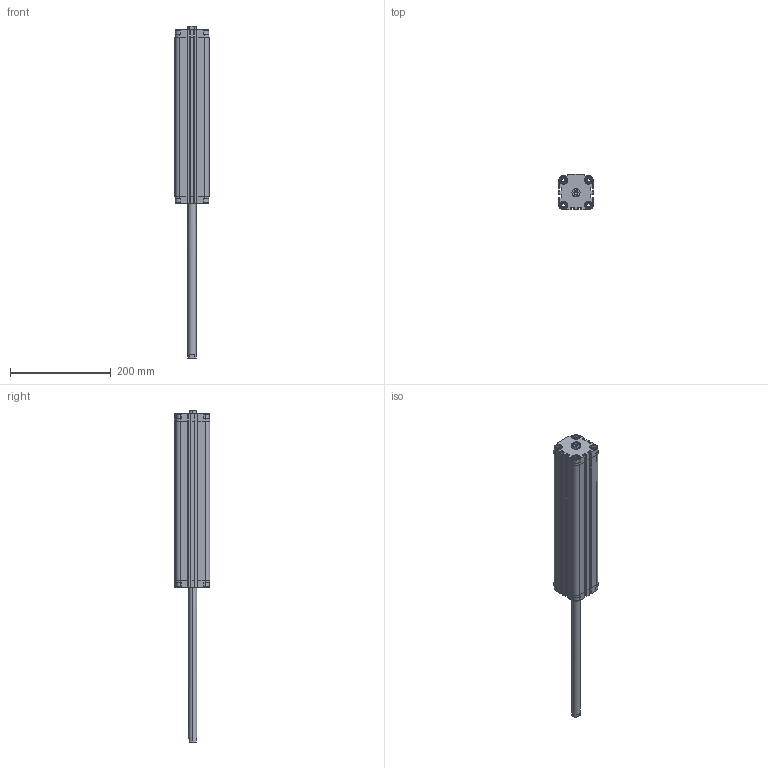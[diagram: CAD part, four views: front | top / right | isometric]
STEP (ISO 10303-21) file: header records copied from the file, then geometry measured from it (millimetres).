
FILE_DESCRIPTION (( 'STEP AP203' ), '1' );
FILE_NAME ('CDVU50-300F-P.STEP', '2020-07-24T18:37:55', ( '' ), ( '' ), 'SwSTEP 2.0', 'SolidWorks 2019', '' );
FILE_SCHEMA (( 'CONFIG_CONTROL_DESIGN' ));
Length unit declared in the file: millimetre
Products named in the file (1): CDVU50-300F-P
Bounding box: 68 x 71 x 660.5 mm (x, y, z)
Volume: 959300.5 mm3; surface area: 263722.6 mm2
Topology: 2 solids, 2 shells, 722 faces, 1928 edges, 1244 vertices
Faces by surface type: plane 422, cylinder 236, cone 48, torus 16
Entity records: 22639 total; most frequent: CARTESIAN_POINT 4463, ORIENTED_EDGE 3840, DIRECTION 3726, EDGE_CURVE 1920, AXIS2_PLACEMENT_3D 1275, VERTEX_POINT 1244, VECTOR 1176, LINE 1176
